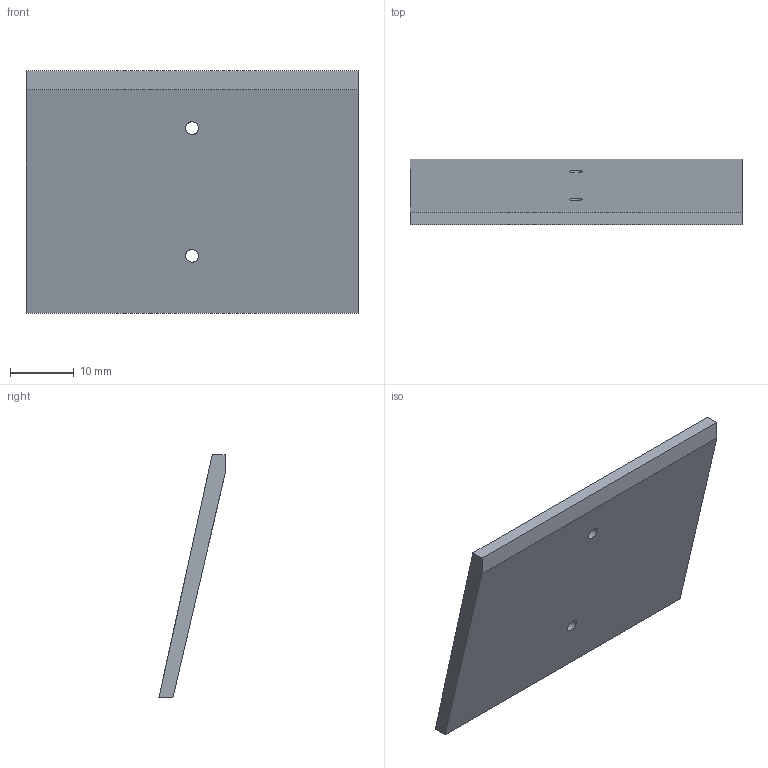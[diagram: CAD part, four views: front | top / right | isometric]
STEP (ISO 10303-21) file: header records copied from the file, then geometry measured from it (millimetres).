
FILE_DESCRIPTION(('Open CASCADE Model'),'2;1');
FILE_NAME('Open CASCADE Shape Model','2026-10-17T23:13:32',('Author'),( 'Open CASCADE'),'Open CASCADE STEP processor 7.9','Open CASCADE 7.9' ,'Unknown');
FILE_SCHEMA(('AUTOMOTIVE_DESIGN { 1 0 10303 214 1 1 1 1 }'));
Length unit declared in the file: millimetre
Products named in the file (1): Open CASCADE STEP translator 7.9 18
Bounding box: 52 x 10.36 x 38 mm (x, y, z)
Volume: 4770.7 mm3; surface area: 4468.4 mm2
Topology: 1 solids, 1 shells, 9 faces, 21 edges, 14 vertices
Faces by surface type: plane 7, cylinder 2
Full cylindrical faces by diameter (mm): 2 x2
Entity records: 602 total; most frequent: CARTESIAN_POINT 147, DIRECTION 83, LINE 51, VECTOR 51, ORIENTED_EDGE 42, PCURVE 42, DEFINITIONAL_REPRESENTATION 42, EDGE_CURVE 21
